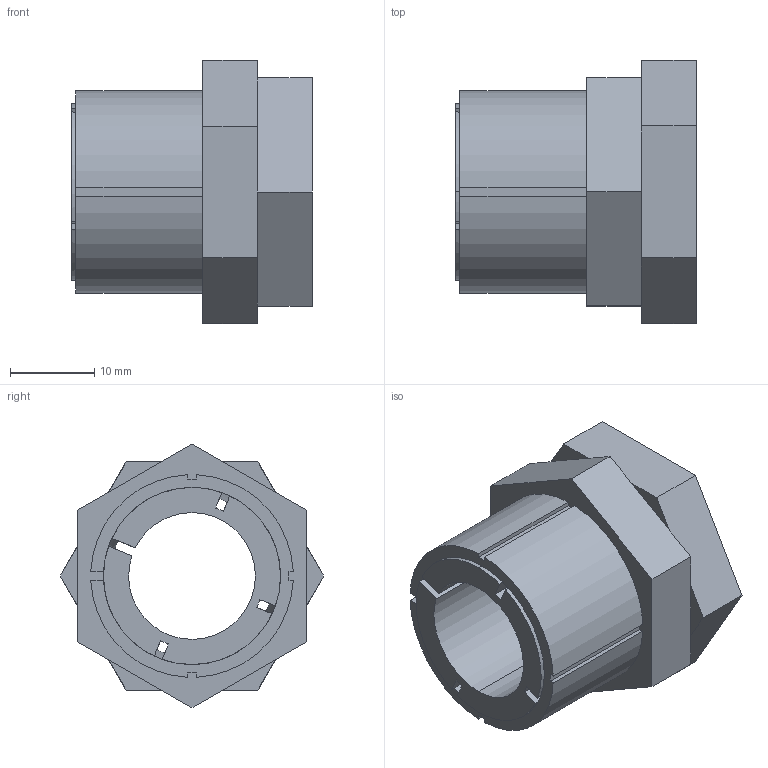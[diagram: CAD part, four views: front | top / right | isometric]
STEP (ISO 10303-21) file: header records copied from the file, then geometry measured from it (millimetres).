
FILE_DESCRIPTION (( 'STEP AP203' ), '1' );
FILE_NAME ('KBS 59 - 15 x 24.STEP', '2015-07-07T21:02:00', ( '' ), ( '' ), 'SwSTEP 2.0', 'SolidWorks 2010', '' );
FILE_SCHEMA (( 'CONFIG_CONTROL_DESIGN' ));
Length unit declared in the file: millimetre
Products named in the file (1): KBS 59 - 15 x 24
Bounding box: 28.5 x 31.18 x 31.18 mm (x, y, z)
Volume: 9708 mm3; surface area: 9031.3 mm2
Topology: 3 solids, 3 shells, 78 faces, 204 edges, 132 vertices
Faces by surface type: plane 56, cylinder 14, cone 8
Entity records: 2469 total; most frequent: CARTESIAN_POINT 451, ORIENTED_EDGE 408, DIRECTION 396, EDGE_CURVE 204, LINE 150, VECTOR 150, VERTEX_POINT 132, AXIS2_PLACEMENT_3D 123
